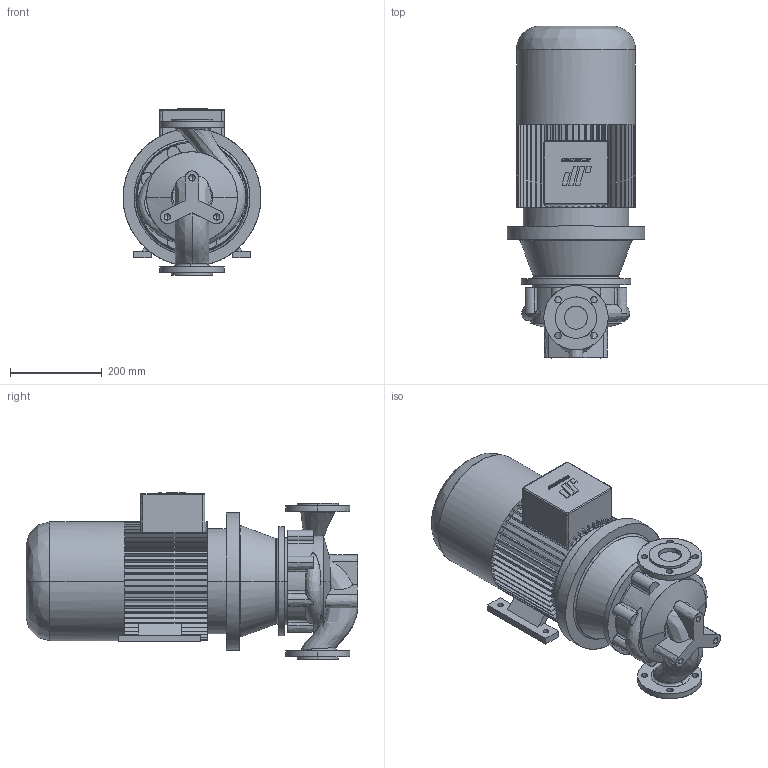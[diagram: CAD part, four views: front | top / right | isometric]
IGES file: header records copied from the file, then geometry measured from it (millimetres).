
Start section: CombiLine
Global section: file name: CLB_50-160_IEC132M.igs; native system:  By UGS Corp.; preprocessor: XPlus GENERIC/IGES 3.0; author: Stageplaats; organization: Johnson Pump Water B.V.; date: 20070713.130732; units: millimetre
Bounding box: 300 x 722.5 x 363 mm (x, y, z)
Surface area: 1117728.8 mm2 (no closed solid volume)
Topology: 0 solids, 0 shells, 582 faces, 3528 edges, 3522 vertices
Faces by surface type: bspline 582
